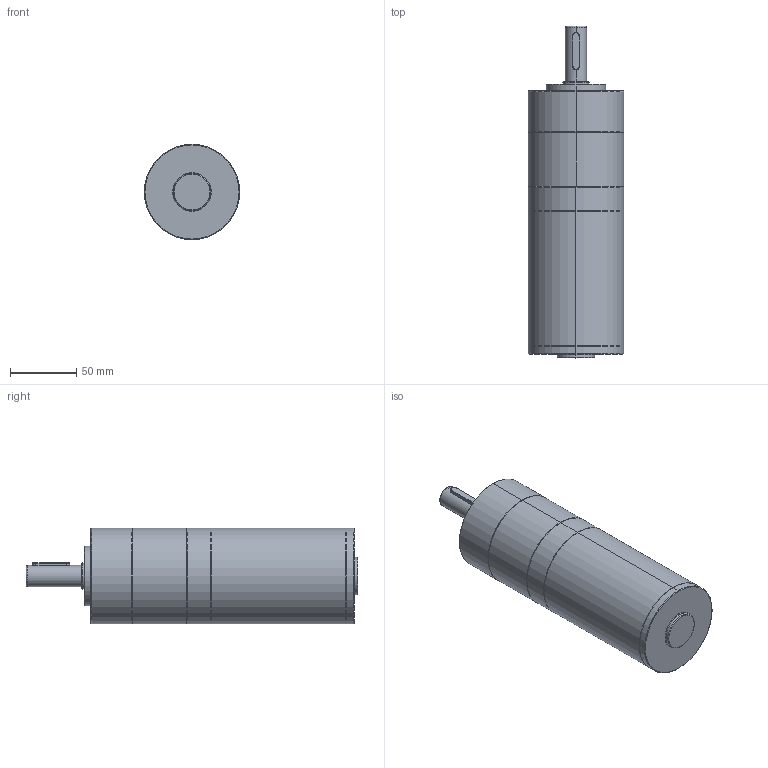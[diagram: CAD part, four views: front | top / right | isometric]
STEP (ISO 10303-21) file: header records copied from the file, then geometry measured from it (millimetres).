
FILE_DESCRIPTION (( 'STEP AP203' ), '1' );
FILE_NAME ('72BLD150W熬厒掀媼撰淕儂.STEP', '2021-07-16T04:52:49', ( '' ), ( '' ), 'SwSTEP 2.0', 'SolidWorks 2021', '' );
FILE_SCHEMA (( 'CONFIG_CONTROL_DESIGN' ));
Length unit declared in the file: millimetre
Products named in the file (3): 72酗; 72BLD150W熬厒掀媼撰淕儂; 72PN媼撰
Assembly tree (2 placements, depth 2):
  72BLD150W熬厒掀媼撰淕儂
    72PN媼撰
    72酗
Bounding box: 72 x 250.65 x 72 mm (x, y, z)
Volume: 815595.2 mm3; surface area: 67661 mm2
Topology: 2 solids, 2 shells, 162 faces, 353 edges, 209 vertices
Faces by surface type: cylinder 52, plane 50, cone 38, bspline 14, torus 8
Entity records: 5016 total; most frequent: CARTESIAN_POINT 1203, DIRECTION 787, ORIENTED_EDGE 686, EDGE_CURVE 343, AXIS2_PLACEMENT_3D 309, VERTEX_POINT 209, EDGE_LOOP 186, LINE 169
